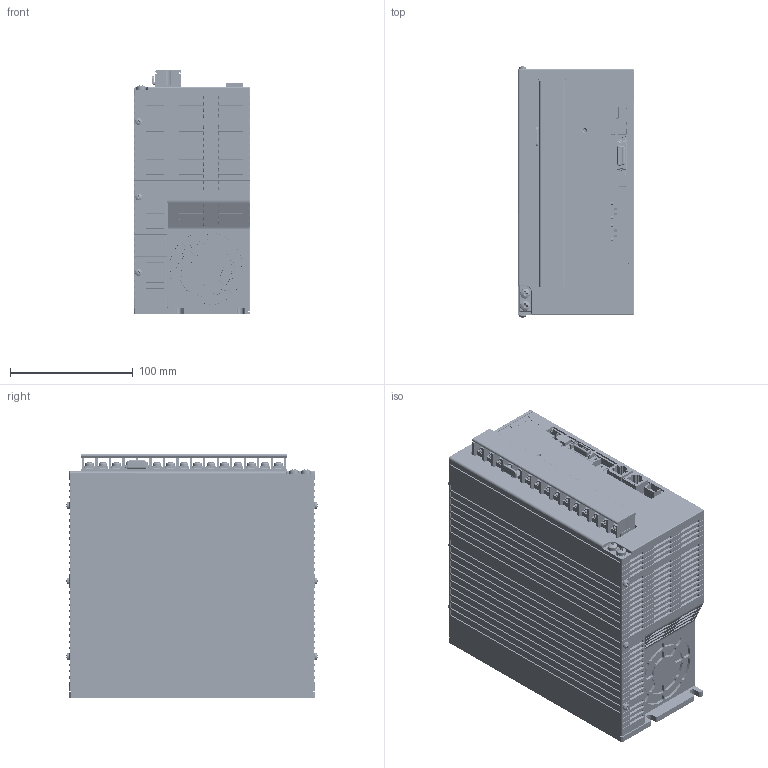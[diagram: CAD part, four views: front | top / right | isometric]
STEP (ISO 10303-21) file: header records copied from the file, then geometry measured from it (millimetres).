
FILE_DESCRIPTION (( 'STEP AP214' ), '1' );
FILE_NAME ('NCR-HD_Series(152-222)#SE-78050A.STEP', '2023-12-28T00:48:15', ( '' ), ( '' ), 'SwSTEP 2.0', 'SolidWorks 2023', '' );
FILE_SCHEMA (( 'AUTOMOTIVE_DESIGN' ));
Products named in the file (1): NCR-HD_Series(152-222)#SE-78050A
Bounding box: 95 x 204.71 x 199.2 mm (x, y, z)
Volume: 3372810.9 mm3; surface area: 220825.9 mm2
Topology: 2 solids, 35 shells, 11400 faces, 32954 edges, 21581 vertices
Faces by surface type: plane 8068, cylinder 2136, bspline 658, cone 385, torus 106, sphere 47
Entity records: 398988 total; most frequent: CARTESIAN_POINT 108681, ORIENTED_EDGE 65860, DIRECTION 53530, EDGE_CURVE 32930, LINE 24706, VECTOR 24706, VERTEX_POINT 21581, AXIS2_PLACEMENT_3D 14412
